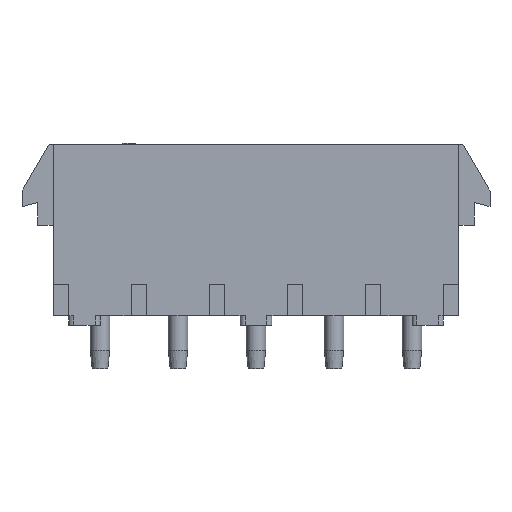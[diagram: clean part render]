
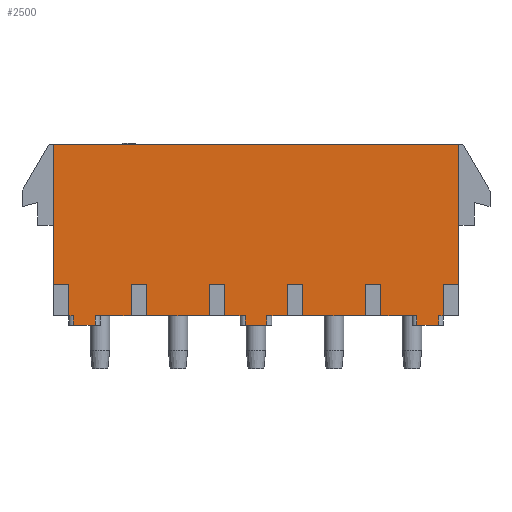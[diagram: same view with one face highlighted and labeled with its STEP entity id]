
A CAD part, front view. The second image highlights one B-rep face of the part: STEP entity #2500.
In plain terms, the highlighted planar face has unit normal (0, -1, 0).
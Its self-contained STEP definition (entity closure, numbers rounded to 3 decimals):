
#27=DIRECTION('',(-1.,0.,0.));
#28=VECTOR('',#27,33.02);
#29=CARTESIAN_POINT('',(16.51,-3.81,0.));
#30=LINE('',#29,#28);
#123=DIRECTION('',(0.,0.,-1.));
#124=VECTOR('',#123,11.43);
#125=CARTESIAN_POINT('',(-16.51,-3.81,0.));
#126=LINE('',#125,#124);
#143=DIRECTION('',(-1.,0.,0.));
#144=VECTOR('',#143,1.27);
#145=CARTESIAN_POINT('',(16.51,-3.81,-11.43));
#146=LINE('',#145,#144);
#147=DIRECTION('',(0.,0.,1.));
#148=VECTOR('',#147,2.54);
#149=CARTESIAN_POINT('',(15.24,-3.81,-13.97));
#150=LINE('',#149,#148);
#151=DIRECTION('',(0.,0.,-1.));
#152=VECTOR('',#151,0.762);
#153=CARTESIAN_POINT('',(14.859,-3.81,-13.97));
#154=LINE('',#153,#152);
#155=DIRECTION('',(0.,0.,1.));
#156=VECTOR('',#155,2.54);
#157=CARTESIAN_POINT('',(10.16,-3.81,-13.97));
#158=LINE('',#157,#156);
#159=DIRECTION('',(-1.,0.,0.));
#160=VECTOR('',#159,1.27);
#161=CARTESIAN_POINT('',(10.16,-3.81,-11.43));
#162=LINE('',#161,#160);
#163=DIRECTION('',(0.,0.,1.));
#164=VECTOR('',#163,2.54);
#165=CARTESIAN_POINT('',(8.89,-3.81,-13.97));
#166=LINE('',#165,#164);
#167=DIRECTION('',(0.,0.,1.));
#168=VECTOR('',#167,2.54);
#169=CARTESIAN_POINT('',(3.81,-3.81,-13.97));
#170=LINE('',#169,#168);
#171=DIRECTION('',(-1.,0.,0.));
#172=VECTOR('',#171,1.27);
#173=CARTESIAN_POINT('',(3.81,-3.81,-11.43));
#174=LINE('',#173,#172);
#175=DIRECTION('',(0.,0.,1.));
#176=VECTOR('',#175,2.54);
#177=CARTESIAN_POINT('',(2.54,-3.81,-13.97));
#178=LINE('',#177,#176);
#179=DIRECTION('',(0.,0.,-1.));
#180=VECTOR('',#179,0.762);
#181=CARTESIAN_POINT('',(0.889,-3.81,-13.97));
#182=LINE('',#181,#180);
#183=DIRECTION('',(0.,0.,1.));
#184=VECTOR('',#183,2.54);
#185=CARTESIAN_POINT('',(-2.54,-3.81,-13.97));
#186=LINE('',#185,#184);
#187=DIRECTION('',(-1.,0.,0.));
#188=VECTOR('',#187,1.27);
#189=CARTESIAN_POINT('',(-2.54,-3.81,-11.43));
#190=LINE('',#189,#188);
#191=DIRECTION('',(0.,0.,1.));
#192=VECTOR('',#191,2.54);
#193=CARTESIAN_POINT('',(-3.81,-3.81,-13.97));
#194=LINE('',#193,#192);
#195=DIRECTION('',(0.,0.,1.));
#196=VECTOR('',#195,2.54);
#197=CARTESIAN_POINT('',(-8.89,-3.81,-13.97));
#198=LINE('',#197,#196);
#199=DIRECTION('',(-1.,0.,0.));
#200=VECTOR('',#199,1.27);
#201=CARTESIAN_POINT('',(-8.89,-3.81,-11.43));
#202=LINE('',#201,#200);
#203=DIRECTION('',(0.,0.,1.));
#204=VECTOR('',#203,2.54);
#205=CARTESIAN_POINT('',(-10.16,-3.81,-13.97));
#206=LINE('',#205,#204);
#207=DIRECTION('',(0.,0.,-1.));
#208=VECTOR('',#207,0.762);
#209=CARTESIAN_POINT('',(-13.081,-3.81,-13.97));
#210=LINE('',#209,#208);
#211=DIRECTION('',(0.,0.,1.));
#212=VECTOR('',#211,2.54);
#213=CARTESIAN_POINT('',(-15.24,-3.81,-13.97));
#214=LINE('',#213,#212);
#215=DIRECTION('',(-1.,0.,0.));
#216=VECTOR('',#215,1.27);
#217=CARTESIAN_POINT('',(-15.24,-3.81,-11.43));
#218=LINE('',#217,#216);
#219=DIRECTION('',(0.,0.,-1.));
#220=VECTOR('',#219,11.43);
#221=CARTESIAN_POINT('',(16.51,-3.81,0.));
#222=LINE('',#221,#220);
#319=DIRECTION('',(-1.,0.,0.));
#320=VECTOR('',#319,5.08);
#321=CARTESIAN_POINT('',(-3.81,-3.81,-13.97));
#322=LINE('',#321,#320);
#335=DIRECTION('',(-1.,0.,0.));
#336=VECTOR('',#335,1.651);
#337=CARTESIAN_POINT('',(-0.889,-3.81,-13.97));
#338=LINE('',#337,#336);
#353=DIRECTION('',(-1.,0.,0.));
#354=VECTOR('',#353,1.651);
#355=CARTESIAN_POINT('',(2.54,-3.81,-13.97));
#356=LINE('',#355,#354);
#369=DIRECTION('',(-1.,0.,0.));
#370=VECTOR('',#369,5.08);
#371=CARTESIAN_POINT('',(8.89,-3.81,-13.97));
#372=LINE('',#371,#370);
#385=DIRECTION('',(-1.,0.,0.));
#386=VECTOR('',#385,2.921);
#387=CARTESIAN_POINT('',(13.081,-3.81,-13.97));
#388=LINE('',#387,#386);
#403=DIRECTION('',(-1.,0.,0.));
#404=VECTOR('',#403,0.381);
#405=CARTESIAN_POINT('',(15.24,-3.81,-13.97));
#406=LINE('',#405,#404);
#481=DIRECTION('',(-1.,0.,0.));
#482=VECTOR('',#481,0.381);
#483=CARTESIAN_POINT('',(-14.859,-3.81,-13.97));
#484=LINE('',#483,#482);
#499=DIRECTION('',(-1.,0.,0.));
#500=VECTOR('',#499,2.921);
#501=CARTESIAN_POINT('',(-10.16,-3.81,-13.97));
#502=LINE('',#501,#500);
#573=DIRECTION('',(0.,0.,-1.));
#574=VECTOR('',#573,0.762);
#575=CARTESIAN_POINT('',(-0.889,-3.81,-13.97));
#576=LINE('',#575,#574);
#582=DIRECTION('',(-1.,0.,0.));
#583=VECTOR('',#582,1.778);
#584=CARTESIAN_POINT('',(-13.081,-3.81,-14.732));
#585=LINE('',#584,#583);
#613=DIRECTION('',(-1.,0.,0.));
#614=VECTOR('',#613,1.778);
#615=CARTESIAN_POINT('',(14.859,-3.81,-14.732));
#616=LINE('',#615,#614);
#654=DIRECTION('',(-1.,0.,0.));
#655=VECTOR('',#654,1.778);
#656=CARTESIAN_POINT('',(0.889,-3.81,-14.732));
#657=LINE('',#656,#655);
#685=DIRECTION('',(0.,0.,-1.));
#686=VECTOR('',#685,0.762);
#687=CARTESIAN_POINT('',(-14.859,-3.81,-13.97));
#688=LINE('',#687,#686);
#757=DIRECTION('',(0.,0.,-1.));
#758=VECTOR('',#757,0.762);
#759=CARTESIAN_POINT('',(13.081,-3.81,-13.97));
#760=LINE('',#759,#758);
#1783=CARTESIAN_POINT('',(16.51,-3.81,0.));
#1784=CARTESIAN_POINT('',(-16.51,-3.81,0.));
#1785=VERTEX_POINT('',#1783);
#1786=VERTEX_POINT('',#1784);
#1839=CARTESIAN_POINT('',(16.51,-3.81,-11.43));
#1840=CARTESIAN_POINT('',(15.24,-3.81,-11.43));
#1841=VERTEX_POINT('',#1839);
#1842=VERTEX_POINT('',#1840);
#1843=CARTESIAN_POINT('',(10.16,-3.81,-11.43));
#1844=CARTESIAN_POINT('',(8.89,-3.81,-11.43));
#1845=VERTEX_POINT('',#1843);
#1846=VERTEX_POINT('',#1844);
#1847=CARTESIAN_POINT('',(3.81,-3.81,-11.43));
#1848=CARTESIAN_POINT('',(2.54,-3.81,-11.43));
#1849=VERTEX_POINT('',#1847);
#1850=VERTEX_POINT('',#1848);
#1851=CARTESIAN_POINT('',(-2.54,-3.81,-11.43));
#1852=CARTESIAN_POINT('',(-3.81,-3.81,-11.43));
#1853=VERTEX_POINT('',#1851);
#1854=VERTEX_POINT('',#1852);
#1855=CARTESIAN_POINT('',(15.24,-3.81,-13.97));
#1856=VERTEX_POINT('',#1855);
#1857=CARTESIAN_POINT('',(8.89,-3.81,-13.97));
#1858=VERTEX_POINT('',#1857);
#1859=CARTESIAN_POINT('',(10.16,-3.81,-13.97));
#1860=VERTEX_POINT('',#1859);
#1861=CARTESIAN_POINT('',(-16.51,-3.81,-11.43));
#1862=VERTEX_POINT('',#1861);
#1863=CARTESIAN_POINT('',(-14.859,-3.81,-14.732));
#1865=VERTEX_POINT('',#1863);
#1869=CARTESIAN_POINT('',(-13.081,-3.81,-14.732));
#1870=VERTEX_POINT('',#1869);
#1871=CARTESIAN_POINT('',(-14.859,-3.81,-13.97));
#1873=VERTEX_POINT('',#1871);
#1877=CARTESIAN_POINT('',(-13.081,-3.81,-13.97));
#1878=VERTEX_POINT('',#1877);
#1889=CARTESIAN_POINT('',(-8.89,-3.81,-11.43));
#1890=CARTESIAN_POINT('',(-10.16,-3.81,-11.43));
#1891=VERTEX_POINT('',#1889);
#1892=VERTEX_POINT('',#1890);
#1947=CARTESIAN_POINT('',(14.859,-3.81,-14.732));
#1948=CARTESIAN_POINT('',(13.081,-3.81,-14.732));
#1949=VERTEX_POINT('',#1947);
#1950=VERTEX_POINT('',#1948);
#1967=CARTESIAN_POINT('',(13.081,-3.81,-13.97));
#1969=VERTEX_POINT('',#1967);
#1973=CARTESIAN_POINT('',(14.859,-3.81,-13.97));
#1974=VERTEX_POINT('',#1973);
#2039=CARTESIAN_POINT('',(3.81,-3.81,-13.97));
#2040=VERTEX_POINT('',#2039);
#2041=CARTESIAN_POINT('',(2.54,-3.81,-13.97));
#2042=VERTEX_POINT('',#2041);
#2051=CARTESIAN_POINT('',(-0.889,-3.81,-13.97));
#2052=CARTESIAN_POINT('',(-2.54,-3.81,-13.97));
#2053=VERTEX_POINT('',#2051);
#2054=VERTEX_POINT('',#2052);
#2055=CARTESIAN_POINT('',(-0.889,-3.81,-14.732));
#2057=VERTEX_POINT('',#2055);
#2061=CARTESIAN_POINT('',(0.889,-3.81,-14.732));
#2062=VERTEX_POINT('',#2061);
#2075=CARTESIAN_POINT('',(0.889,-3.81,-13.97));
#2076=VERTEX_POINT('',#2075);
#2081=CARTESIAN_POINT('',(-3.81,-3.81,-13.97));
#2082=CARTESIAN_POINT('',(-8.89,-3.81,-13.97));
#2083=VERTEX_POINT('',#2081);
#2084=VERTEX_POINT('',#2082);
#2085=CARTESIAN_POINT('',(-15.24,-3.81,-13.97));
#2086=VERTEX_POINT('',#2085);
#2211=CARTESIAN_POINT('',(-15.24,-3.81,-11.43));
#2212=VERTEX_POINT('',#2211);
#2213=CARTESIAN_POINT('',(-10.16,-3.81,-13.97));
#2214=VERTEX_POINT('',#2213);
#2423=CARTESIAN_POINT('',(16.51,-3.81,0.));
#2424=DIRECTION('',(0.,-1.,0.));
#2425=DIRECTION('',(-1.,0.,0.));
#2426=AXIS2_PLACEMENT_3D('',#2423,#2424,#2425);
#2427=PLANE('',#2426);
#2429=ORIENTED_EDGE('',*,*,#2428,.T.);
#2431=ORIENTED_EDGE('',*,*,#2430,.F.);
#2433=ORIENTED_EDGE('',*,*,#2432,.T.);
#2435=ORIENTED_EDGE('',*,*,#2434,.T.);
#2437=ORIENTED_EDGE('',*,*,#2436,.T.);
#2439=ORIENTED_EDGE('',*,*,#2438,.F.);
#2441=ORIENTED_EDGE('',*,*,#2440,.T.);
#2443=ORIENTED_EDGE('',*,*,#2442,.T.);
#2445=ORIENTED_EDGE('',*,*,#2444,.T.);
#2447=ORIENTED_EDGE('',*,*,#2446,.F.);
#2449=ORIENTED_EDGE('',*,*,#2448,.T.);
#2451=ORIENTED_EDGE('',*,*,#2450,.T.);
#2453=ORIENTED_EDGE('',*,*,#2452,.T.);
#2455=ORIENTED_EDGE('',*,*,#2454,.F.);
#2457=ORIENTED_EDGE('',*,*,#2456,.T.);
#2459=ORIENTED_EDGE('',*,*,#2458,.T.);
#2461=ORIENTED_EDGE('',*,*,#2460,.T.);
#2463=ORIENTED_EDGE('',*,*,#2462,.F.);
#2465=ORIENTED_EDGE('',*,*,#2464,.T.);
#2467=ORIENTED_EDGE('',*,*,#2466,.T.);
#2469=ORIENTED_EDGE('',*,*,#2468,.T.);
#2471=ORIENTED_EDGE('',*,*,#2470,.F.);
#2473=ORIENTED_EDGE('',*,*,#2472,.T.);
#2475=ORIENTED_EDGE('',*,*,#2474,.T.);
#2477=ORIENTED_EDGE('',*,*,#2476,.T.);
#2479=ORIENTED_EDGE('',*,*,#2478,.F.);
#2481=ORIENTED_EDGE('',*,*,#2480,.T.);
#2483=ORIENTED_EDGE('',*,*,#2482,.T.);
#2485=ORIENTED_EDGE('',*,*,#2484,.T.);
#2487=ORIENTED_EDGE('',*,*,#2486,.F.);
#2489=ORIENTED_EDGE('',*,*,#2488,.T.);
#2491=ORIENTED_EDGE('',*,*,#2490,.T.);
#2493=ORIENTED_EDGE('',*,*,#2492,.T.);
#2494=ORIENTED_EDGE('',*,*,#2402,.F.);
#2495=ORIENTED_EDGE('',*,*,#2338,.F.);
#2497=ORIENTED_EDGE('',*,*,#2496,.T.);
#2498=EDGE_LOOP('',(#2429,#2431,#2433,#2435,#2437,#2439,#2441,#2443,#2445,#2447,
#2449,#2451,#2453,#2455,#2457,#2459,#2461,#2463,#2465,#2467,#2469,#2471,#2473,
#2475,#2477,#2479,#2481,#2483,#2485,#2487,#2489,#2491,#2493,#2494,#2495,#2497));
#2499=FACE_OUTER_BOUND('',#2498,.F.);
#2338=EDGE_CURVE('',#1785,#1786,#30,.T.);
#2402=EDGE_CURVE('',#1786,#1862,#126,.T.);
#2428=EDGE_CURVE('',#1841,#1842,#146,.T.);
#2430=EDGE_CURVE('',#1856,#1842,#150,.T.);
#2432=EDGE_CURVE('',#1856,#1974,#406,.T.);
#2434=EDGE_CURVE('',#1974,#1949,#154,.T.);
#2436=EDGE_CURVE('',#1949,#1950,#616,.T.);
#2438=EDGE_CURVE('',#1969,#1950,#760,.T.);
#2440=EDGE_CURVE('',#1969,#1860,#388,.T.);
#2442=EDGE_CURVE('',#1860,#1845,#158,.T.);
#2444=EDGE_CURVE('',#1845,#1846,#162,.T.);
#2446=EDGE_CURVE('',#1858,#1846,#166,.T.);
#2448=EDGE_CURVE('',#1858,#2040,#372,.T.);
#2450=EDGE_CURVE('',#2040,#1849,#170,.T.);
#2452=EDGE_CURVE('',#1849,#1850,#174,.T.);
#2454=EDGE_CURVE('',#2042,#1850,#178,.T.);
#2456=EDGE_CURVE('',#2042,#2076,#356,.T.);
#2458=EDGE_CURVE('',#2076,#2062,#182,.T.);
#2460=EDGE_CURVE('',#2062,#2057,#657,.T.);
#2462=EDGE_CURVE('',#2053,#2057,#576,.T.);
#2464=EDGE_CURVE('',#2053,#2054,#338,.T.);
#2466=EDGE_CURVE('',#2054,#1853,#186,.T.);
#2468=EDGE_CURVE('',#1853,#1854,#190,.T.);
#2470=EDGE_CURVE('',#2083,#1854,#194,.T.);
#2472=EDGE_CURVE('',#2083,#2084,#322,.T.);
#2474=EDGE_CURVE('',#2084,#1891,#198,.T.);
#2476=EDGE_CURVE('',#1891,#1892,#202,.T.);
#2478=EDGE_CURVE('',#2214,#1892,#206,.T.);
#2480=EDGE_CURVE('',#2214,#1878,#502,.T.);
#2482=EDGE_CURVE('',#1878,#1870,#210,.T.);
#2484=EDGE_CURVE('',#1870,#1865,#585,.T.);
#2486=EDGE_CURVE('',#1873,#1865,#688,.T.);
#2488=EDGE_CURVE('',#1873,#2086,#484,.T.);
#2490=EDGE_CURVE('',#2086,#2212,#214,.T.);
#2492=EDGE_CURVE('',#2212,#1862,#218,.T.);
#2496=EDGE_CURVE('',#1785,#1841,#222,.T.);
#2500=ADVANCED_FACE('',(#2499),#2427,.T.);
